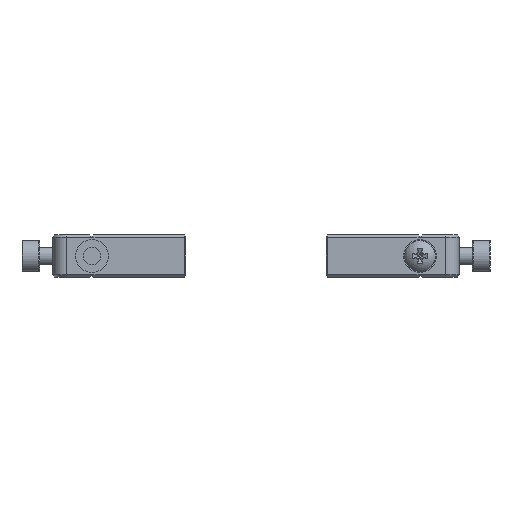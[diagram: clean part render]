
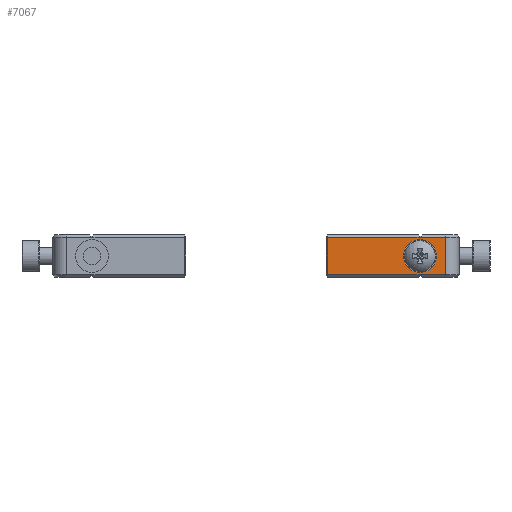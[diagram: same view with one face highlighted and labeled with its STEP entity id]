
A CAD part, left-side view. The second image highlights one B-rep face of the part: STEP entity #7067.
In plain terms, the highlighted planar face has unit normal (-1, 0, 0).
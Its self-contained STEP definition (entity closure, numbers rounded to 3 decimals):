
#2416=LINE('',#46528,#4373);
#2417=LINE('',#46531,#4374);
#2418=LINE('',#46533,#4375);
#2419=LINE('',#46535,#4376);
#4373=VECTOR('',#30023,1.);
#4374=VECTOR('',#30024,1.);
#4375=VECTOR('',#30025,1.);
#4376=VECTOR('',#30026,1.);
#6149=FACE_BOUND('',#10892,.T.);
#7067=ADVANCED_FACE('',(#9294,#6149),#8226,.T.);
#8226=PLANE('',#26493);
#9294=FACE_OUTER_BOUND('',#10891,.T.);
#10891=EDGE_LOOP('',(#14990,#14991,#14992,#14993));
#10892=EDGE_LOOP('',(#14994));
#14990=ORIENTED_EDGE('',*,*,#23009,.T.);
#14991=ORIENTED_EDGE('',*,*,#23010,.T.);
#14992=ORIENTED_EDGE('',*,*,#23011,.T.);
#14993=ORIENTED_EDGE('',*,*,#23012,.T.);
#14994=ORIENTED_EDGE('',*,*,#23013,.F.);
#20104=VERTEX_POINT('',#46529);
#20105=VERTEX_POINT('',#46530);
#20106=VERTEX_POINT('',#46532);
#20107=VERTEX_POINT('',#46534);
#20108=VERTEX_POINT('',#46537);
#23009=EDGE_CURVE('',#20104,#20105,#2416,.T.);
#23010=EDGE_CURVE('',#20105,#20106,#2417,.T.);
#23011=EDGE_CURVE('',#20106,#20107,#2418,.T.);
#23012=EDGE_CURVE('',#20107,#20104,#2419,.T.);
#23013=EDGE_CURVE('',#20108,#20108,#25332,.T.);
#25332=CIRCLE('',#26492,2.35);
#26492=AXIS2_PLACEMENT_3D('',#46536,#30027,#30028);
#26493=AXIS2_PLACEMENT_3D('',#46538,#30029,#30030);
#30023=DIRECTION('',(0.,1.,0.));
#30024=DIRECTION('',(0.,0.,-1.));
#30025=DIRECTION('',(0.,-1.,0.));
#30026=DIRECTION('',(0.,0.,1.));
#30027=DIRECTION('',(-1.,0.,0.));
#30028=DIRECTION('',(0.,1.,0.));
#30029=DIRECTION('',(-1.,0.,0.));
#30030=DIRECTION('',(0.,1.,0.));
#46528=CARTESIAN_POINT('',(-21.,6.725,-0.3));
#46529=CARTESIAN_POINT('',(-21.,-10.275,-0.3));
#46530=CARTESIAN_POINT('',(-21.,6.525,-0.3));
#46531=CARTESIAN_POINT('',(-21.,6.525,-3.));
#46532=CARTESIAN_POINT('',(-21.,6.525,-5.7));
#46533=CARTESIAN_POINT('',(-21.,6.725,-5.7));
#46534=CARTESIAN_POINT('',(-21.,-10.275,-5.7));
#46535=CARTESIAN_POINT('',(-21.,-10.275,-3.));
#46536=CARTESIAN_POINT('',(-21.,-6.675,-3.));
#46537=CARTESIAN_POINT('',(-21.,-4.325,-3.));
#46538=CARTESIAN_POINT('',(-21.,6.725,-3.));
